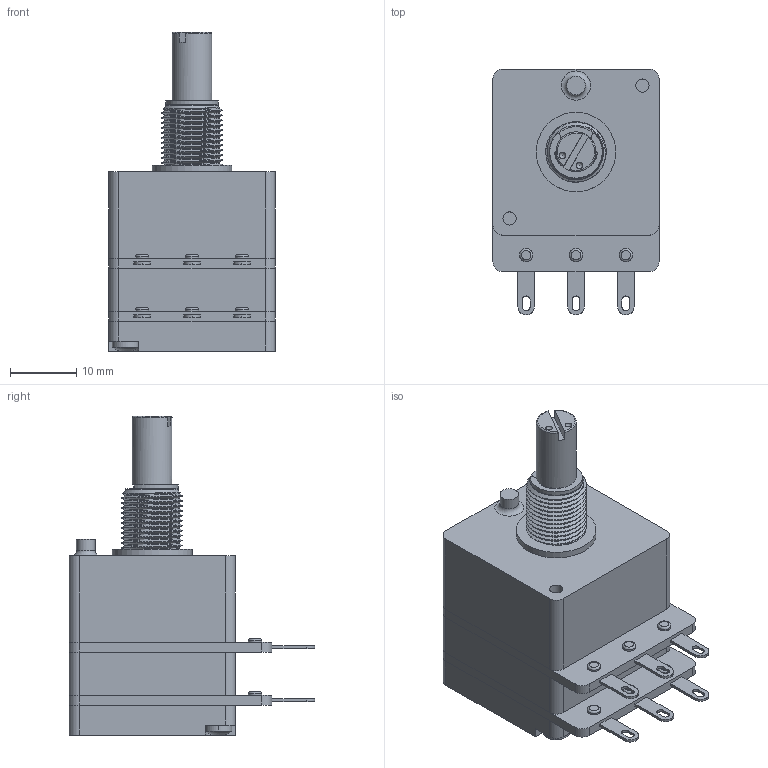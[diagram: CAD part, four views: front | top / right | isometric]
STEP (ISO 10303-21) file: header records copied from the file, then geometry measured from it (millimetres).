
FILE_DESCRIPTION(('FreeCAD Model'),'2;1');
FILE_NAME('Open CASCADE Shape Model','2024-02-26T16:07:06',(''),(''), 'Open CASCADE STEP processor 7.6','FreeCAD','Unknown');
FILE_SCHEMA(('AUTOMOTIVE_DESIGN { 1 0 10303 214 1 1 1 1 }'));
Length unit declared in the file: millimetre
Products named in the file (1): 2cp25xx-sm20
Bounding box: 25 x 37 x 48.07 mm (x, y, z)
Volume: 18064.9 mm3; surface area: 6047.3 mm2
Topology: 1 solids, 11 shells, 331 faces, 780 edges, 485 vertices
Faces by surface type: plane 158, cylinder 107, bspline 38, cone 12, torus 10, sphere 4, revolution 2
Full cylindrical faces by diameter (mm): 1.9 x4, 2 x16, 2.2 x6, 2.8 x1, 4.5 x2, 5.4 x1, 6 x1, 6.05 x1, 8 x1, 9.09 x11, 12 x1
Entity records: 29495 total; most frequent: CARTESIAN_POINT 13770, DIRECTION 2625, ORIENTED_EDGE 1550, PCURVE 1550, DEFINITIONAL_REPRESENTATION 1550, LINE 1217, VECTOR 1217, EDGE_CURVE 775
